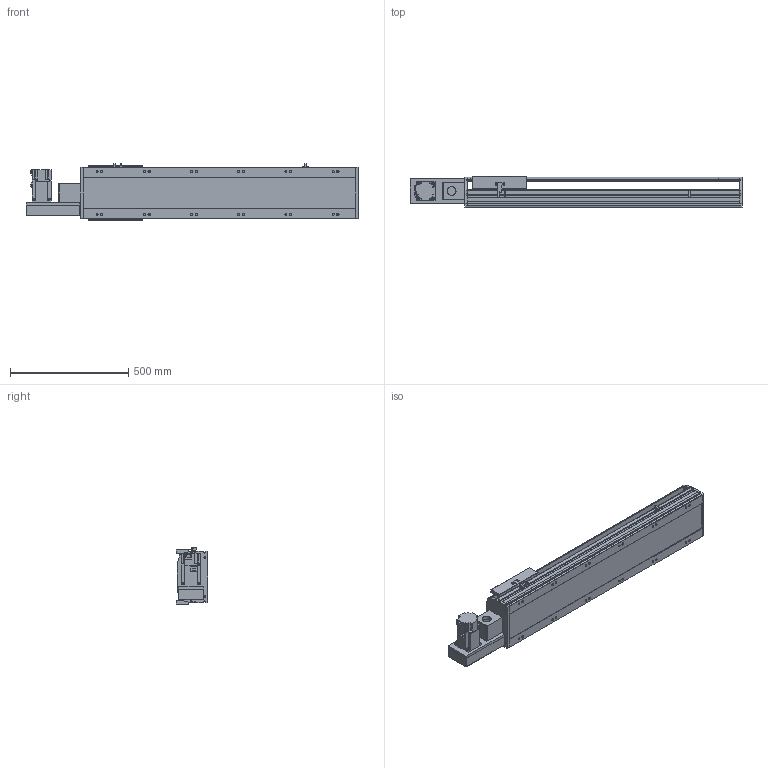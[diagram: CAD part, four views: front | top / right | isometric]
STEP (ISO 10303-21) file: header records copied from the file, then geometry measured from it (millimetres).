
FILE_DESCRIPTION(/* description */ ('STEP AP214'),/* implementation_level */ '2;1');
FILE_NAME(/* name */ 'PBS220-P40-S800-L-T75-C1-N(0)',/* time_stamp */ '2022-06-11T09:55:23+02:00',/* author */ ('License CC BY-ND 4.0'),/* organization */ ('CADENAS'),/* preprocessor_version */ 'ST-DEVELOPER v18.102',/* originating_system */ 'PARTsolutions',/* authorisation */ ' ');
FILE_SCHEMA (('AUTOMOTIVE_DESIGN {1 0 10303 214 3 1 1}'));
Length unit declared in the file: millimetre
Products named in the file (7): PBS220-P40-S800-L-T75-C1-N(0); PBS220_sensor; PBS220_plant; PBS220_sliser; T75-p1; PBS220T-L_motors; PBS220-S800()_body
Assembly tree (8 placements, depth 2):
  PBS220-P40-S800-L-T75-C1-N(0)
    PBS220_sensor  x3
    PBS220_plant
    PBS220_sliser
    T75-p1
    PBS220T-L_motors
    PBS220-S800()_body
Bounding box: 1406 x 134 x 238.5 mm (x, y, z)
Volume: 18768953.3 mm3; surface area: 1869488.4 mm2
Topology: 8 solids, 8 shells, 890 faces, 2340 edges, 1522 vertices
Faces by surface type: plane 590, cylinder 264, cone 36
Full cylindrical faces by diameter (mm): 2.013 x4, 4.5 x14, 4.917 x4, 6 x7, 6.647 x8, 8 x10, 8.376 x12, 8.5 x12, 10 x6, 14 x12, 38 x2, 40 x1, 70 x1
Entity records: 25005 total; most frequent: CARTESIAN_POINT 4360, DIRECTION 4347, ORIENTED_EDGE 4034, EDGE_CURVE 2017, AXIS2_PLACEMENT_3D 1503, VERTEX_POINT 1384, LINE 1341, VECTOR 1341
